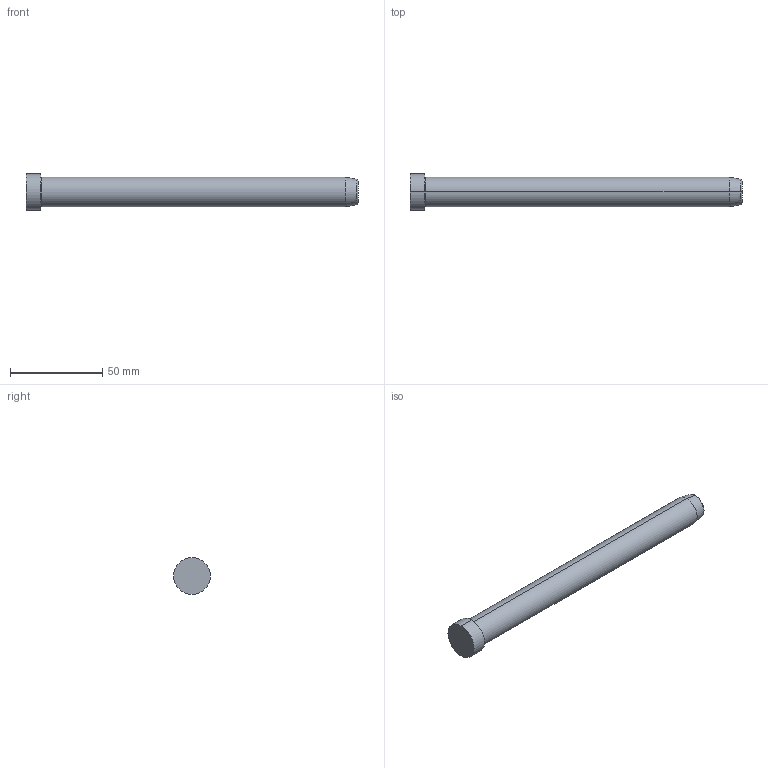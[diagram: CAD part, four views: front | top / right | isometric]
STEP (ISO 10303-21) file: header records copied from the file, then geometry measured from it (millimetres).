
FILE_DESCRIPTION( ( 'STEP AP203' ), '1' );
FILE_NAME( 'D:/Delta 3 D/D01D/16/D01D - 16x180.step', '2003-01-02T23:17:14', ( ' ' ), ( ' ' ), 'XStep 1.0', ' ', ' ' );
FILE_SCHEMA( ( 'CONFIG_CONTROL_DESIGN' ) );
Length unit declared in the file: metre
Products named in the file (1): 1
Bounding box: 180 x 20 x 20 mm (x, y, z)
Volume: 36877.9 mm3; surface area: 9708.9 mm2
Topology: 1 solids, 1 shells, 14 faces, 26 edges, 16 vertices
Faces by surface type: revolution 8, bspline 6
Entity records: 437 total; most frequent: CARTESIAN_POINT 121, ORIENTED_EDGE 52, DIRECTION 50, EDGE_CURVE 26, AXIS2_PLACEMENT_3D 17, EDGE_LOOP 16, VERTEX_POINT 16, CIRCLE 16
